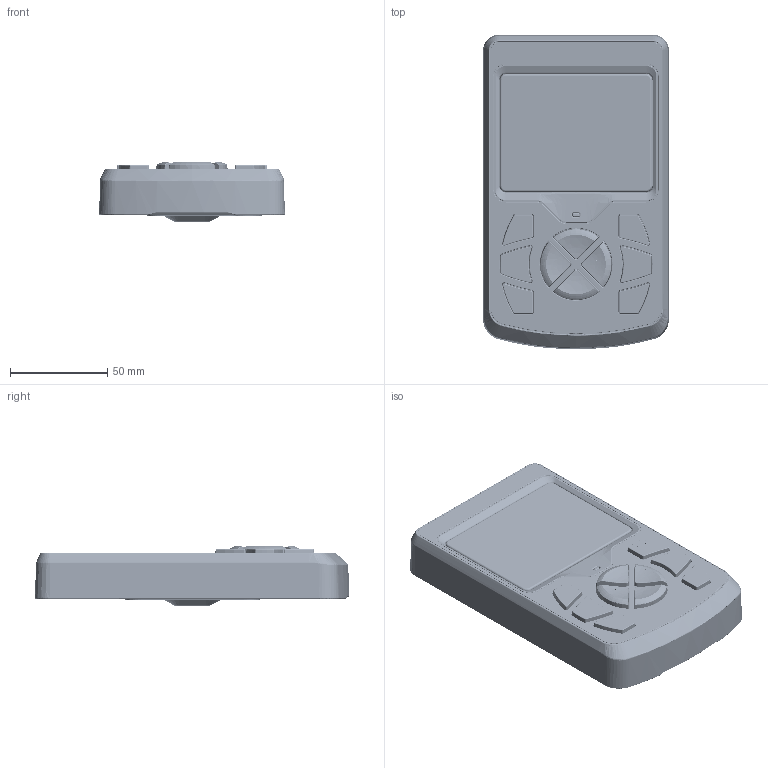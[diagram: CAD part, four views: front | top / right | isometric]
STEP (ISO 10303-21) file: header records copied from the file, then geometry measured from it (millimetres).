
FILE_DESCRIPTION (( 'STEP AP214' ), '1' );
FILE_NAME ('CB-HMI-3.5.STEP', '2023-03-06T02:30:19', ( '' ), ( '' ), 'SwSTEP 2.0', 'SolidWorks 2019', '' );
FILE_SCHEMA (( 'AUTOMOTIVE_DESIGN' ));
Length unit declared in the file: millimetre
Products named in the file (1): CB-HMI-3.5
Bounding box: 95.39 x 161.23 x 30.47 mm (x, y, z)
Volume: 148646.8 mm3; surface area: 234586.3 mm2
Topology: 54 solids, 54 shells, 13515 faces, 33353 edges, 20187 vertices
Faces by surface type: plane 4033, cylinder 3452, bspline 2335, torus 1959, cone 1265, sphere 471
Entity records: 643078 total; most frequent: CARTESIAN_POINT 193225, ORIENTED_EDGE 66232, DIRECTION 59178, EDGE_CURVE 33116, AXIS2_PLACEMENT_3D 22456, VERTEX_POINT 20171, EDGE_LOOP 14297, VECTOR 14266
